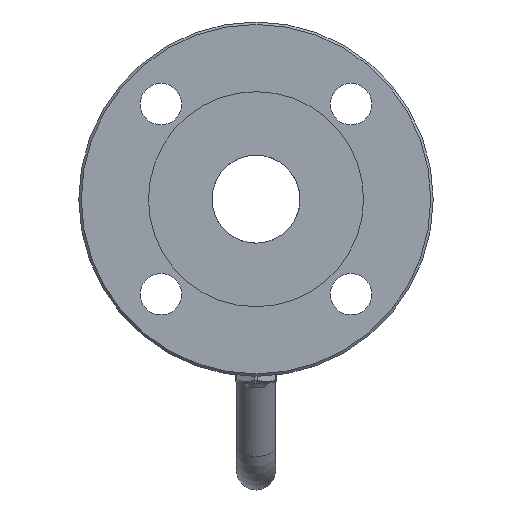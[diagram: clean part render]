
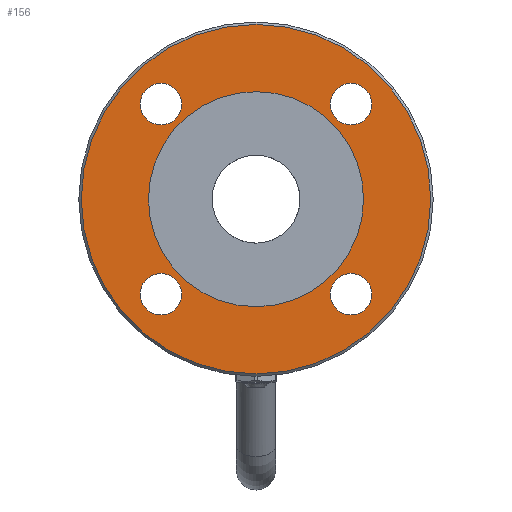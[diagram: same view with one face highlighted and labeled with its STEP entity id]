
A CAD part, left-side view. The second image highlights one B-rep face of the part: STEP entity #156.
In plain terms, the highlighted planar face has unit normal (-1, 0, 0).
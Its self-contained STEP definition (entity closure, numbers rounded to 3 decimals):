
#156=ADVANCED_FACE('',(#1336,#1338,#1340,#1342,#1344,#1346),#1348,.T.);
#1336=FACE_BOUND('',#1337,.T.);
#1337=EDGE_LOOP('',(#2221));
#1338=FACE_BOUND('',#1339,.T.);
#1339=EDGE_LOOP('',(#2222));
#1340=FACE_BOUND('',#1341,.T.);
#1341=EDGE_LOOP('',(#2223));
#1342=FACE_BOUND('',#1343,.T.);
#1343=EDGE_LOOP('',(#2224));
#1344=FACE_BOUND('',#1345,.T.);
#1345=EDGE_LOOP('',(#2225));
#1346=FACE_OUTER_BOUND('',#1347,.T.);
#1347=EDGE_LOOP('',(#2226));
#1348=PLANE('',#1349);
#1349=AXIS2_PLACEMENT_3D('',#1350,#1351,#1352);
#1350=CARTESIAN_POINT('',(-69.,0.,0.));
#1351=DIRECTION('',(-1.,0.,0.));
#1352=DIRECTION('',(0.,-1.,0.));
#2221=ORIENTED_EDGE('',*,*,#3256,.T.);
#2222=ORIENTED_EDGE('',*,*,#3257,.T.);
#2223=ORIENTED_EDGE('',*,*,#3259,.T.);
#2224=ORIENTED_EDGE('',*,*,#3261,.T.);
#2225=ORIENTED_EDGE('',*,*,#3250,.T.);
#2226=ORIENTED_EDGE('',*,*,#3267,.T.);
#3250=EDGE_CURVE('',#3587,#3587,#3588,.T.);
#3256=EDGE_CURVE('',#3595,#3595,#3597,.T.);
#3257=EDGE_CURVE('',#3598,#3598,#3599,.T.);
#3259=EDGE_CURVE('',#3601,#3601,#3602,.T.);
#3261=EDGE_CURVE('',#3604,#3604,#3605,.T.);
#3267=EDGE_CURVE('',#3615,#3615,#3616,.T.);
#3587=VERTEX_POINT('',#4667);
#3588=CIRCLE('',#4668,44.);
#3595=VERTEX_POINT('',#4688);
#3597=CIRCLE('',#4692,8.5);
#3598=VERTEX_POINT('',#4696);
#3599=CIRCLE('',#4697,8.5);
#3601=VERTEX_POINT('',#4704);
#3602=CIRCLE('',#4705,8.5);
#3604=VERTEX_POINT('',#4712);
#3605=CIRCLE('',#4713,8.5);
#3615=VERTEX_POINT('',#4738);
#3616=CIRCLE('',#4739,71.5);
#4667=CARTESIAN_POINT('',(-69.,44.,0.144));
#4668=AXIS2_PLACEMENT_3D('',#4669,#4670,#4671);
#4669=CARTESIAN_POINT('',(-69.,0.,0.));
#4670=DIRECTION('',(1.,0.,0.));
#4671=DIRECTION('',(0.,1.,0.003));
#4688=CARTESIAN_POINT('',(-69.,38.891,-47.391));
#4692=AXIS2_PLACEMENT_3D('',#4693,#4694,#4695);
#4693=CARTESIAN_POINT('',(-69.,38.891,-38.891));
#4694=DIRECTION('',(1.,0.,0.));
#4695=DIRECTION('',(0.,0.,-1.));
#4696=CARTESIAN_POINT('',(-69.,47.391,38.891));
#4697=AXIS2_PLACEMENT_3D('',#4698,#4699,#4700);
#4698=CARTESIAN_POINT('',(-69.,38.891,38.891));
#4699=DIRECTION('',(1.,0.,0.));
#4700=DIRECTION('',(0.,1.,0.));
#4704=CARTESIAN_POINT('',(-69.,-38.891,47.391));
#4705=AXIS2_PLACEMENT_3D('',#4706,#4707,#4708);
#4706=CARTESIAN_POINT('',(-69.,-38.891,38.891));
#4707=DIRECTION('',(1.,0.,0.));
#4708=DIRECTION('',(0.,0.,1.));
#4712=CARTESIAN_POINT('',(-69.,-47.391,-38.891));
#4713=AXIS2_PLACEMENT_3D('',#4714,#4715,#4716);
#4714=CARTESIAN_POINT('',(-69.,-38.891,-38.891));
#4715=DIRECTION('',(1.,0.,0.));
#4716=DIRECTION('',(0.,-1.,0.));
#4738=CARTESIAN_POINT('',(-69.,-71.5,0.));
#4739=AXIS2_PLACEMENT_3D('',#4740,#4741,#4742);
#4740=CARTESIAN_POINT('',(-69.,0.,0.));
#4741=DIRECTION('',(-1.,0.,0.));
#4742=DIRECTION('',(0.,-1.,0.));
